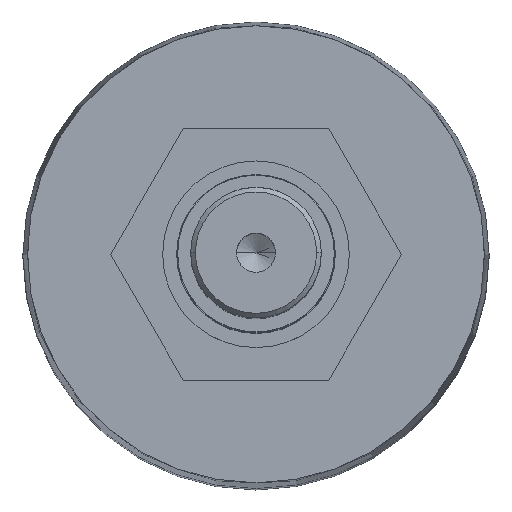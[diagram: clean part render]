
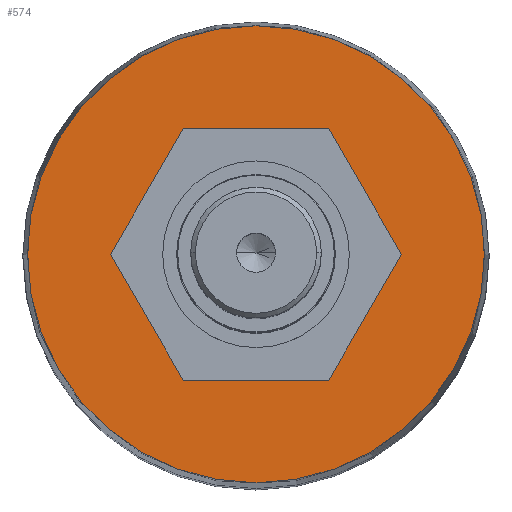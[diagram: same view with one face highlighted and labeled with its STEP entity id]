
A CAD part, top view. The second image highlights one B-rep face of the part: STEP entity #574.
In plain terms, the highlighted planar face has unit normal (0, 0, 1).
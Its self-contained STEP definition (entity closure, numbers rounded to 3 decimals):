
#273 = VERTEX_POINT ( 'NONE', #1094 ) ;
#276 = VERTEX_POINT ( 'NONE', #1118 ) ;
#367 = EDGE_CURVE ( 'NONE', #273, #276, #1200, .T. ) ;
#498 = EDGE_LOOP ( 'NONE', ( #588, #575, #533, #535, #532, #569 ) ) ;
#531 = EDGE_CURVE ( 'NONE', #539, #586, #1384, .T. ) ;
#532 = ORIENTED_EDGE ( 'NONE', *, *, #581, .F. ) ;
#533 = ORIENTED_EDGE ( 'NONE', *, *, #534, .F. ) ;
#534 = EDGE_CURVE ( 'NONE', #578, #577, #1391, .T. ) ;
#535 = ORIENTED_EDGE ( 'NONE', *, *, #536, .F. ) ;
#536 = EDGE_CURVE ( 'NONE', #573, #578, #1380, .T. ) ;
#539 = VERTEX_POINT ( 'NONE', #1381 ) ;
#569 = ORIENTED_EDGE ( 'NONE', *, *, #583, .F. ) ;
#570 = EDGE_LOOP ( 'NONE', ( #571, #572 ) ) ;
#571 = ORIENTED_EDGE ( 'NONE', *, *, #579, .T. ) ;
#572 = ORIENTED_EDGE ( 'NONE', *, *, #367, .T. ) ;
#573 = VERTEX_POINT ( 'NONE', #1355 ) ;
#574 = ADVANCED_FACE ( 'NONE', ( #1342, #1404 ), #1477, .T. ) ;
#575 = ORIENTED_EDGE ( 'NONE', *, *, #576, .F. ) ;
#576 = EDGE_CURVE ( 'NONE', #577, #539, #1462, .T. ) ;
#577 = VERTEX_POINT ( 'NONE', #1468 ) ;
#578 = VERTEX_POINT ( 'NONE', #1472 ) ;
#579 = EDGE_CURVE ( 'NONE', #276, #273, #1463, .T. ) ;
#581 = EDGE_CURVE ( 'NONE', #590, #573, #1445, .T. ) ;
#583 = EDGE_CURVE ( 'NONE', #586, #590, #1448, .T. ) ;
#586 = VERTEX_POINT ( 'NONE', #1444 ) ;
#588 = ORIENTED_EDGE ( 'NONE', *, *, #531, .F. ) ;
#590 = VERTEX_POINT ( 'NONE', #1482 ) ;
#1094 = CARTESIAN_POINT ( 'NONE',  ( 24.5, 0., 104.5 ) ) ;
#1118 = CARTESIAN_POINT ( 'NONE',  ( -24.5, 0., 104.5 ) ) ;
#1185 = DIRECTION ( 'NONE',  ( 1., 0., 0. ) ) ;
#1186 = AXIS2_PLACEMENT_3D ( 'NONE', #1191, #1192, #1185 ) ;
#1191 = CARTESIAN_POINT ( 'NONE',  ( 0., 0., 104.5 ) ) ;
#1192 = DIRECTION ( 'NONE',  ( 0., 0., 1. ) ) ;
#1200 = CIRCLE ( 'NONE', #1186, 24.5 ) ;
#1342 = FACE_BOUND ( 'NONE', #498, .T. ) ;
#1355 = CARTESIAN_POINT ( 'NONE',  ( -7.794, -13.5, 104.5 ) ) ;
#1363 = DIRECTION ( 'NONE',  ( 0.5, 0.866, 0. ) ) ;
#1365 = VECTOR ( 'NONE', #1372, 1000. ) ;
#1372 = DIRECTION ( 'NONE',  ( -1., 0., 0. ) ) ;
#1380 = LINE ( 'NONE', #1387, #1386 ) ;
#1381 = CARTESIAN_POINT ( 'NONE',  ( 7.794, 13.5, 104.5 ) ) ;
#1383 = CARTESIAN_POINT ( 'NONE',  ( 7.794, 13.5, 104.5 ) ) ;
#1384 = LINE ( 'NONE', #1383, #1365 ) ;
#1385 = DIRECTION ( 'NONE',  ( 1., 0., 0. ) ) ;
#1386 = VECTOR ( 'NONE', #1385, 1000. ) ;
#1387 = CARTESIAN_POINT ( 'NONE',  ( -7.794, -13.5, 104.5 ) ) ;
#1390 = CARTESIAN_POINT ( 'NONE',  ( 7.794, -13.5, 104.5 ) ) ;
#1391 = LINE ( 'NONE', #1390, #1395 ) ;
#1395 = VECTOR ( 'NONE', #1363, 1000. ) ;
#1404 = FACE_OUTER_BOUND ( 'NONE', #570, .T. ) ;
#1424 = AXIS2_PLACEMENT_3D ( 'NONE', #1464, #1461, #1443 ) ;
#1443 = DIRECTION ( 'NONE',  ( 1., 0., 0. ) ) ;
#1444 = CARTESIAN_POINT ( 'NONE',  ( -7.794, 13.5, 104.5 ) ) ;
#1445 = LINE ( 'NONE', #1456, #1455 ) ;
#1447 = CARTESIAN_POINT ( 'NONE',  ( -7.794, 13.5, 104.5 ) ) ;
#1448 = LINE ( 'NONE', #1447, #1480 ) ;
#1454 = DIRECTION ( 'NONE',  ( 0.5, -0.866, 0. ) ) ;
#1455 = VECTOR ( 'NONE', #1454, 1000. ) ;
#1456 = CARTESIAN_POINT ( 'NONE',  ( -15.588, 0., 104.5 ) ) ;
#1461 = DIRECTION ( 'NONE',  ( 0., 0., 1. ) ) ;
#1462 = LINE ( 'NONE', #1467, #1466 ) ;
#1463 = CIRCLE ( 'NONE', #1471, 24.5 ) ;
#1464 = CARTESIAN_POINT ( 'NONE',  ( 0., 0., 104.5 ) ) ;
#1465 = DIRECTION ( 'NONE',  ( -0.5, 0.866, 0. ) ) ;
#1466 = VECTOR ( 'NONE', #1465, 1000. ) ;
#1467 = CARTESIAN_POINT ( 'NONE',  ( 15.588, 0., 104.5 ) ) ;
#1468 = CARTESIAN_POINT ( 'NONE',  ( 15.588, 0., 104.5 ) ) ;
#1470 = DIRECTION ( 'NONE',  ( 1., 0., 0. ) ) ;
#1471 = AXIS2_PLACEMENT_3D ( 'NONE', #1476, #1475, #1470 ) ;
#1472 = CARTESIAN_POINT ( 'NONE',  ( 7.794, -13.5, 104.5 ) ) ;
#1475 = DIRECTION ( 'NONE',  ( 0., 0., 1. ) ) ;
#1476 = CARTESIAN_POINT ( 'NONE',  ( 0., 0., 104.5 ) ) ;
#1477 = PLANE ( 'NONE',  #1424 ) ;
#1479 = DIRECTION ( 'NONE',  ( -0.5, -0.866, 0. ) ) ;
#1480 = VECTOR ( 'NONE', #1479, 1000. ) ;
#1482 = CARTESIAN_POINT ( 'NONE',  ( -15.588, 0., 104.5 ) ) ;
